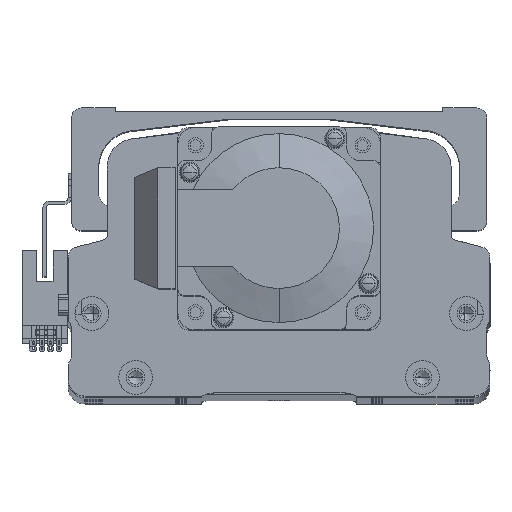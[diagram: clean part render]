
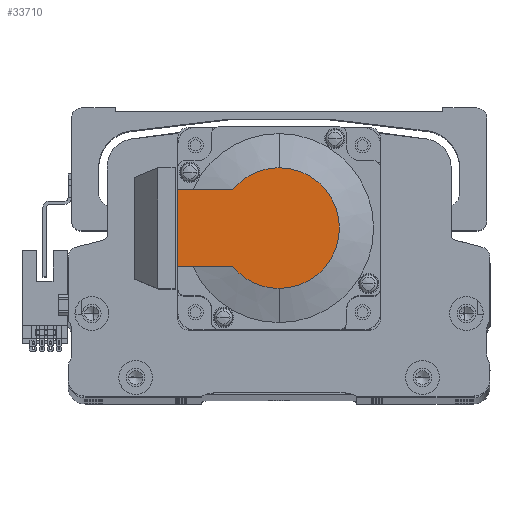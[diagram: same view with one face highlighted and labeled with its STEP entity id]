
A CAD part, top view. The second image highlights one B-rep face of the part: STEP entity #33710.
In plain terms, the highlighted planar face has unit normal (0, 0, 1) as drawn and (-1, 0, 0) by its records, which use the part's own axes.
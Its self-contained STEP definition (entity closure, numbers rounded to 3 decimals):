
#171 = CIRCLE ( 'NONE', #853, 17.881 ) ;
#853 = AXIS2_PLACEMENT_3D ( 'NONE', #10274, #41643, #14771 ) ;
#4779 = CARTESIAN_POINT ( 'NONE',  ( -118.5, 30., -11.45 ) ) ;
#5044 = ORIENTED_EDGE ( 'NONE', *, *, #16925, .F. ) ;
#6088 = VERTEX_POINT ( 'NONE', #21402 ) ;
#7090 = EDGE_CURVE ( 'NONE', #29563, #14574, #57930, .T. ) ;
#7906 = VECTOR ( 'NONE', #42337, 1000. ) ;
#8918 = CARTESIAN_POINT ( 'NONE',  ( -118.5, 0., 0. ) ) ;
#9333 = LINE ( 'NONE', #29054, #7906 ) ;
#10274 = CARTESIAN_POINT ( 'NONE',  ( -118.5, 0., 0. ) ) ;
#12117 = VERTEX_POINT ( 'NONE', #52816 ) ;
#12789 = FACE_OUTER_BOUND ( 'NONE', #51043, .T. ) ;
#13433 = DIRECTION ( 'NONE',  ( 0., 0., -1. ) ) ;
#14574 = VERTEX_POINT ( 'NONE', #18652 ) ;
#14771 = DIRECTION ( 'NONE',  ( 0., 0., -1. ) ) ;
#16282 = CIRCLE ( 'NONE', #25909, 17.881 ) ;
#16925 = EDGE_CURVE ( 'NONE', #27906, #29563, #9333, .T. ) ;
#17182 = ORIENTED_EDGE ( 'NONE', *, *, #56707, .T. ) ;
#17294 = AXIS2_PLACEMENT_3D ( 'NONE', #8918, #40291, #13433 ) ;
#18115 = CARTESIAN_POINT ( 'NONE',  ( -118.5, 0., 0. ) ) ;
#18652 = CARTESIAN_POINT ( 'NONE',  ( -118.5, 13.735, 11.45 ) ) ;
#20881 = CARTESIAN_POINT ( 'NONE',  ( -118.5, -8.941, 0. ) ) ;
#21377 = ORIENTED_EDGE ( 'NONE', *, *, #7090, .F. ) ;
#21402 = CARTESIAN_POINT ( 'NONE',  ( -118.5, 0., 17.881 ) ) ;
#22233 = VECTOR ( 'NONE', #36362, 1000. ) ;
#22679 = DIRECTION ( 'NONE',  ( 0., 0., -1. ) ) ;
#25418 = DIRECTION ( 'NONE',  ( 0., 0., 1. ) ) ;
#25909 = AXIS2_PLACEMENT_3D ( 'NONE', #18115, #49444, #22679 ) ;
#27906 = VERTEX_POINT ( 'NONE', #4779 ) ;
#29054 = CARTESIAN_POINT ( 'NONE',  ( -118.5, 30., 25. ) ) ;
#29563 = VERTEX_POINT ( 'NONE', #49807 ) ;
#30313 = EDGE_CURVE ( 'NONE', #6088, #14574, #50539, .T. ) ;
#30536 = EDGE_CURVE ( 'NONE', #27906, #12117, #44167, .T. ) ;
#32330 = VECTOR ( 'NONE', #42823, 1000. ) ;
#32437 = ORIENTED_EDGE ( 'NONE', *, *, #30536, .T. ) ;
#33710 = ADVANCED_FACE ( 'NONE', ( #12789 ), #55731, .T. ) ;
#35166 = CARTESIAN_POINT ( 'NONE',  ( -118.5, 0., -17.881 ) ) ;
#36362 = DIRECTION ( 'NONE',  ( 0., -1., 0. ) ) ;
#37177 = CARTESIAN_POINT ( 'NONE',  ( -118.5, -8.941, -11.45 ) ) ;
#39629 = VERTEX_POINT ( 'NONE', #35166 ) ;
#40291 = DIRECTION ( 'NONE',  ( -1., 0., 0. ) ) ;
#41643 = DIRECTION ( 'NONE',  ( -1., 0., 0. ) ) ;
#42337 = DIRECTION ( 'NONE',  ( 0., 0., 1. ) ) ;
#42823 = DIRECTION ( 'NONE',  ( 0., -1., 0. ) ) ;
#44167 = LINE ( 'NONE', #37177, #32330 ) ;
#45285 = CARTESIAN_POINT ( 'NONE',  ( -118.5, 0., 11.45 ) ) ;
#46394 = EDGE_CURVE ( 'NONE', #12117, #39629, #171, .T. ) ;
#46883 = ORIENTED_EDGE ( 'NONE', *, *, #30313, .T. ) ;
#49444 = DIRECTION ( 'NONE',  ( -1., 0., 0. ) ) ;
#49807 = CARTESIAN_POINT ( 'NONE',  ( -118.5, 30., 11.45 ) ) ;
#50539 = CIRCLE ( 'NONE', #17294, 17.881 ) ;
#51043 = EDGE_LOOP ( 'NONE', ( #32437, #53740, #17182, #46883, #21377, #5044 ) ) ;
#52203 = DIRECTION ( 'NONE',  ( -1., 0., 0. ) ) ;
#52816 = CARTESIAN_POINT ( 'NONE',  ( -118.5, 13.735, -11.45 ) ) ;
#53740 = ORIENTED_EDGE ( 'NONE', *, *, #46394, .T. ) ;
#55418 = AXIS2_PLACEMENT_3D ( 'NONE', #20881, #52203, #25418 ) ;
#55731 = PLANE ( 'NONE',  #55418 ) ;
#56707 = EDGE_CURVE ( 'NONE', #39629, #6088, #16282, .T. ) ;
#57930 = LINE ( 'NONE', #45285, #22233 ) ;
